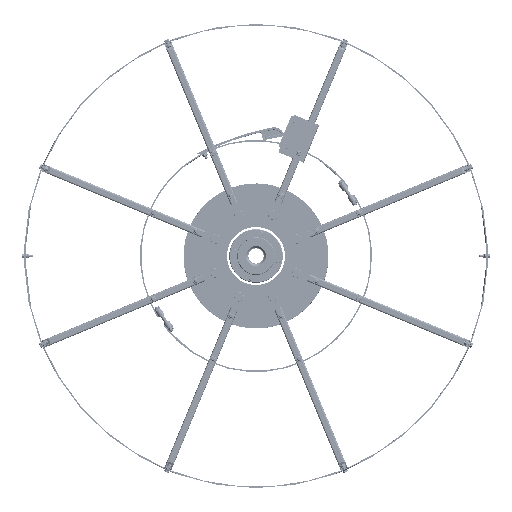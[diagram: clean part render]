
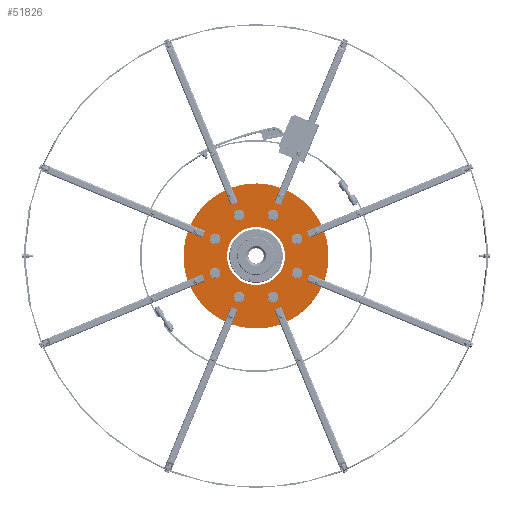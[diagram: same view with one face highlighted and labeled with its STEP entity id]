
A CAD part, left-side view. The second image highlights one B-rep face of the part: STEP entity #51826.
In plain terms, the highlighted planar face has unit normal (-1, 0, 0).
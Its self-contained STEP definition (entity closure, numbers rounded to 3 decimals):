
#8272=PLANE('',#57002);
#9166=CIRCLE('',#52649,1.85);
#9193=CIRCLE('',#52715,1.85);
#9220=CIRCLE('',#52781,1.85);
#9247=CIRCLE('',#52847,1.85);
#9274=CIRCLE('',#52913,1.85);
#9301=CIRCLE('',#52979,1.85);
#9328=CIRCLE('',#53045,1.85);
#9364=CIRCLE('',#53138,1.85);
#10509=CIRCLE('',#55669,1.11);
#10510=CIRCLE('',#55672,1.11);
#10511=CIRCLE('',#55675,1.11);
#10512=CIRCLE('',#55678,1.11);
#10513=CIRCLE('',#55681,1.11);
#10514=CIRCLE('',#55684,1.11);
#10515=CIRCLE('',#55687,1.11);
#10571=CIRCLE('',#55789,1.11);
#11069=CIRCLE('',#56999,10.);
#11070=CIRCLE('',#57001,25.);
#12472=FACE_BOUND('',#19300,.T.);
#12473=FACE_BOUND('',#19301,.T.);
#12474=FACE_BOUND('',#19302,.T.);
#12475=FACE_BOUND('',#19303,.T.);
#12476=FACE_BOUND('',#19304,.T.);
#12477=FACE_BOUND('',#19305,.T.);
#12478=FACE_BOUND('',#19306,.T.);
#12479=FACE_BOUND('',#19307,.T.);
#12480=FACE_BOUND('',#19308,.T.);
#12481=FACE_BOUND('',#19309,.T.);
#12482=FACE_BOUND('',#19310,.T.);
#12483=FACE_BOUND('',#19311,.T.);
#12484=FACE_BOUND('',#19312,.T.);
#12485=FACE_BOUND('',#19313,.T.);
#12486=FACE_BOUND('',#19314,.T.);
#12487=FACE_BOUND('',#19315,.T.);
#12488=FACE_BOUND('',#19316,.T.);
#15226=FACE_OUTER_BOUND('',#19299,.T.);
#19299=EDGE_LOOP('',(#42734));
#19300=EDGE_LOOP('',(#42735));
#19301=EDGE_LOOP('',(#42736));
#19302=EDGE_LOOP('',(#42737));
#19303=EDGE_LOOP('',(#42738));
#19304=EDGE_LOOP('',(#42739));
#19305=EDGE_LOOP('',(#42740));
#19306=EDGE_LOOP('',(#42741));
#19307=EDGE_LOOP('',(#42742));
#19308=EDGE_LOOP('',(#42743));
#19309=EDGE_LOOP('',(#42744));
#19310=EDGE_LOOP('',(#42745));
#19311=EDGE_LOOP('',(#42746));
#19312=EDGE_LOOP('',(#42747));
#19313=EDGE_LOOP('',(#42748));
#19314=EDGE_LOOP('',(#42749));
#19315=EDGE_LOOP('',(#42750));
#19316=EDGE_LOOP('',(#42751));
#20671=VERTEX_POINT('',#72741);
#20722=VERTEX_POINT('',#72948);
#20773=VERTEX_POINT('',#73155);
#20824=VERTEX_POINT('',#73362);
#20875=VERTEX_POINT('',#73569);
#20926=VERTEX_POINT('',#73776);
#20977=VERTEX_POINT('',#73983);
#21049=VERTEX_POINT('',#74286);
#23302=VERTEX_POINT('',#83496);
#23303=VERTEX_POINT('',#83500);
#23304=VERTEX_POINT('',#83504);
#23305=VERTEX_POINT('',#83508);
#23306=VERTEX_POINT('',#83512);
#23307=VERTEX_POINT('',#83516);
#23308=VERTEX_POINT('',#83520);
#23386=VERTEX_POINT('',#83763);
#24428=VERTEX_POINT('',#87951);
#24429=VERTEX_POINT('',#87954);
#25393=EDGE_CURVE('',#20671,#20671,#9166,.T.);
#25462=EDGE_CURVE('',#20722,#20722,#9193,.T.);
#25531=EDGE_CURVE('',#20773,#20773,#9220,.T.);
#25600=EDGE_CURVE('',#20824,#20824,#9247,.T.);
#25669=EDGE_CURVE('',#20875,#20875,#9274,.T.);
#25738=EDGE_CURVE('',#20926,#20926,#9301,.T.);
#25807=EDGE_CURVE('',#20977,#20977,#9328,.T.);
#25909=EDGE_CURVE('',#21049,#21049,#9364,.T.);
#29085=EDGE_CURVE('',#23302,#23302,#10509,.T.);
#29086=EDGE_CURVE('',#23303,#23303,#10510,.T.);
#29087=EDGE_CURVE('',#23304,#23304,#10511,.T.);
#29088=EDGE_CURVE('',#23305,#23305,#10512,.T.);
#29089=EDGE_CURVE('',#23306,#23306,#10513,.T.);
#29090=EDGE_CURVE('',#23307,#23307,#10514,.T.);
#29091=EDGE_CURVE('',#23308,#23308,#10515,.T.);
#29210=EDGE_CURVE('',#23386,#23386,#10571,.T.);
#30773=EDGE_CURVE('',#24428,#24428,#11069,.T.);
#30774=EDGE_CURVE('',#24429,#24429,#11070,.T.);
#42734=ORIENTED_EDGE('',*,*,#30774,.T.);
#42735=ORIENTED_EDGE('',*,*,#25393,.T.);
#42736=ORIENTED_EDGE('',*,*,#25462,.T.);
#42737=ORIENTED_EDGE('',*,*,#25531,.T.);
#42738=ORIENTED_EDGE('',*,*,#25600,.T.);
#42739=ORIENTED_EDGE('',*,*,#25669,.T.);
#42740=ORIENTED_EDGE('',*,*,#25738,.T.);
#42741=ORIENTED_EDGE('',*,*,#25807,.T.);
#42742=ORIENTED_EDGE('',*,*,#25909,.T.);
#42743=ORIENTED_EDGE('',*,*,#29085,.T.);
#42744=ORIENTED_EDGE('',*,*,#29086,.T.);
#42745=ORIENTED_EDGE('',*,*,#29087,.T.);
#42746=ORIENTED_EDGE('',*,*,#29088,.T.);
#42747=ORIENTED_EDGE('',*,*,#29089,.T.);
#42748=ORIENTED_EDGE('',*,*,#29090,.T.);
#42749=ORIENTED_EDGE('',*,*,#29091,.T.);
#42750=ORIENTED_EDGE('',*,*,#29210,.T.);
#42751=ORIENTED_EDGE('',*,*,#30773,.T.);
#51826=ADVANCED_FACE('',(#15226,#12472,#12473,#12474,#12475,#12476,#12477,
#12478,#12479,#12480,#12481,#12482,#12483,#12484,#12485,#12486,#12487,#12488),
#8272,.T.);
#52649=AXIS2_PLACEMENT_3D('',#72742,#58461,#58462);
#52715=AXIS2_PLACEMENT_3D('',#72949,#58611,#58612);
#52781=AXIS2_PLACEMENT_3D('',#73156,#58761,#58762);
#52847=AXIS2_PLACEMENT_3D('',#73363,#58911,#58912);
#52913=AXIS2_PLACEMENT_3D('',#73570,#59061,#59062);
#52979=AXIS2_PLACEMENT_3D('',#73777,#59211,#59212);
#53045=AXIS2_PLACEMENT_3D('',#73984,#59361,#59362);
#53138=AXIS2_PLACEMENT_3D('',#74287,#59577,#59578);
#55669=AXIS2_PLACEMENT_3D('',#83497,#66006,#66007);
#55672=AXIS2_PLACEMENT_3D('',#83501,#66012,#66013);
#55675=AXIS2_PLACEMENT_3D('',#83505,#66018,#66019);
#55678=AXIS2_PLACEMENT_3D('',#83509,#66024,#66025);
#55681=AXIS2_PLACEMENT_3D('',#83513,#66030,#66031);
#55684=AXIS2_PLACEMENT_3D('',#83517,#66036,#66037);
#55687=AXIS2_PLACEMENT_3D('',#83521,#66042,#66043);
#55789=AXIS2_PLACEMENT_3D('',#83764,#66309,#66310);
#56999=AXIS2_PLACEMENT_3D('',#87952,#69484,#69485);
#57001=AXIS2_PLACEMENT_3D('',#87955,#69488,#69489);
#57002=AXIS2_PLACEMENT_3D('',#87956,#69490,#69491);
#58461=DIRECTION('center_axis',(1.,0.,0.));
#58462=DIRECTION('ref_axis',(0.,-0.707,0.707));
#58611=DIRECTION('center_axis',(1.,0.,0.));
#58612=DIRECTION('ref_axis',(0.,0.,
1.));
#58761=DIRECTION('center_axis',(1.,0.,0.));
#58762=DIRECTION('ref_axis',(0.,0.707,0.707));
#58911=DIRECTION('center_axis',(1.,0.,0.));
#58912=DIRECTION('ref_axis',(0.,1.,0.));
#59061=DIRECTION('center_axis',(1.,0.,0.));
#59062=DIRECTION('ref_axis',(0.,0.707,-0.707));
#59211=DIRECTION('center_axis',(1.,0.,0.));
#59212=DIRECTION('ref_axis',(0.,0.,
-1.));
#59361=DIRECTION('center_axis',(1.,0.,0.));
#59362=DIRECTION('ref_axis',(0.,-0.707,-0.707));
#59577=DIRECTION('center_axis',(1.,0.,0.));
#59578=DIRECTION('ref_axis',(0.,-1.,0.));
#66006=DIRECTION('center_axis',(1.,0.,0.));
#66007=DIRECTION('ref_axis',(0.,-0.973,-0.23));
#66012=DIRECTION('center_axis',(1.,0.,0.));
#66013=DIRECTION('ref_axis',(0.,-0.851,0.525));
#66018=DIRECTION('center_axis',(1.,0.,0.));
#66019=DIRECTION('ref_axis',(0.,-0.23,0.973));
#66024=DIRECTION('center_axis',(1.,0.,0.));
#66025=DIRECTION('ref_axis',(0.,0.525,0.851));
#66030=DIRECTION('center_axis',(1.,0.,0.));
#66031=DIRECTION('ref_axis',(0.,0.973,0.23));
#66036=DIRECTION('center_axis',(1.,0.,0.));
#66037=DIRECTION('ref_axis',(0.,0.851,-0.525));
#66042=DIRECTION('center_axis',(1.,0.,0.));
#66043=DIRECTION('ref_axis',(0.,0.23,-0.973));
#66309=DIRECTION('center_axis',(1.,0.,0.));
#66310=DIRECTION('ref_axis',(0.,-0.525,-0.851));
#69484=DIRECTION('center_axis',(1.,0.,0.));
#69485=DIRECTION('ref_axis',(0.,-0.383,0.924));
#69488=DIRECTION('center_axis',(-1.,0.,0.));
#69489=DIRECTION('ref_axis',(0.,-0.383,0.924));
#69490=DIRECTION('center_axis',(-1.,0.,0.));
#69491=DIRECTION('ref_axis',(0.,-0.383,0.924));
#72741=CARTESIAN_POINT('',(-2.223,95.397,2.028));
#72742=CARTESIAN_POINT('Origin',(-2.223,94.089,3.336));
#72948=CARTESIAN_POINT('',(-2.223,94.089,-10.186));
#72949=CARTESIAN_POINT('Origin',(-2.223,94.089,-8.336));
#73155=CARTESIAN_POINT('',(-2.223,84.528,-17.897));
#73156=CARTESIAN_POINT('Origin',(-2.223,85.836,-16.589));
#73362=CARTESIAN_POINT('',(-2.223,72.314,-16.589));
#73363=CARTESIAN_POINT('Origin',(-2.223,74.164,-16.589));
#73569=CARTESIAN_POINT('',(-2.223,64.603,-7.028));
#73570=CARTESIAN_POINT('Origin',(-2.223,65.911,-8.336));
#73776=CARTESIAN_POINT('',(-2.223,65.911,5.186));
#73777=CARTESIAN_POINT('Origin',(-2.223,65.911,3.336));
#73983=CARTESIAN_POINT('',(-2.223,75.472,12.897));
#73984=CARTESIAN_POINT('Origin',(-2.223,74.164,11.589));
#74286=CARTESIAN_POINT('',(-2.223,87.686,11.589));
#74287=CARTESIAN_POINT('Origin',(-2.223,85.836,11.589));
#83496=CARTESIAN_POINT('',(-2.223,89.691,18.543));
#83497=CARTESIAN_POINT('Origin',(-2.223,88.61,18.287));
#83500=CARTESIAN_POINT('',(-2.223,101.732,5.527));
#83501=CARTESIAN_POINT('Origin',(-2.223,100.787,6.11));
#83504=CARTESIAN_POINT('',(-2.223,101.043,-12.191));
#83505=CARTESIAN_POINT('Origin',(-2.223,100.787,-11.11));
#83508=CARTESIAN_POINT('',(-2.223,88.027,-24.232));
#83509=CARTESIAN_POINT('Origin',(-2.223,88.61,-23.287));
#83512=CARTESIAN_POINT('',(-2.223,70.309,-23.543));
#83513=CARTESIAN_POINT('Origin',(-2.223,71.39,-23.287));
#83516=CARTESIAN_POINT('',(-2.223,58.268,-10.527));
#83517=CARTESIAN_POINT('Origin',(-2.223,59.213,-11.11));
#83520=CARTESIAN_POINT('',(-2.223,58.957,7.191));
#83521=CARTESIAN_POINT('Origin',(-2.223,59.213,6.11));
#83763=CARTESIAN_POINT('',(-2.223,71.973,19.232));
#83764=CARTESIAN_POINT('Origin',(-2.223,71.39,18.287));
#87951=CARTESIAN_POINT('',(-2.223,83.827,-11.739));
#87952=CARTESIAN_POINT('Origin',(-2.223,80.,-2.5));
#87954=CARTESIAN_POINT('',(-2.223,89.567,-25.597));
#87955=CARTESIAN_POINT('Origin',(-2.223,80.,-2.5));
#87956=CARTESIAN_POINT('Origin',(-2.223,80.,-2.5));
